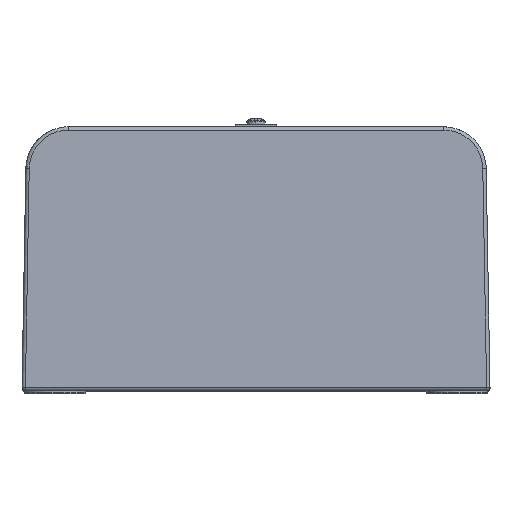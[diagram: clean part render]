
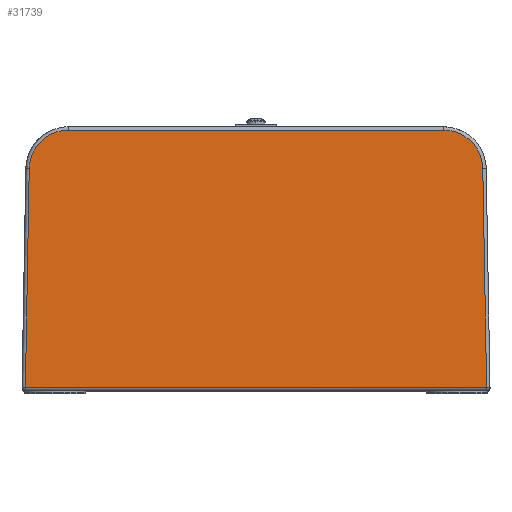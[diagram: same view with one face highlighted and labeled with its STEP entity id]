
A CAD part, top view. The second image highlights one B-rep face of the part: STEP entity #31739.
In plain terms, the highlighted planar face has unit normal (0, 0.018, 1).
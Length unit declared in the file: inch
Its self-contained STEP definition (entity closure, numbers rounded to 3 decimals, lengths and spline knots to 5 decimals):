
#3803 = VECTOR ( 'NONE', #27073, 39.37008 ) ;
#3804 = VECTOR ( 'NONE', #27086, 39.37008 ) ;
#3806 = VECTOR ( 'NONE', #27068, 39.37008 ) ;
#3807 = VECTOR ( 'NONE', #27077, 39.37008 ) ;
#4175 = ORIENTED_EDGE ( 'NONE', *, *, #6968, .T. ) ;
#4176 = ORIENTED_EDGE ( 'NONE', *, *, #6969, .T. ) ;
#4177 = ORIENTED_EDGE ( 'NONE', *, *, #6970, .T. ) ;
#4178 = ORIENTED_EDGE ( 'NONE', *, *, #6971, .T. ) ;
#4179 = ORIENTED_EDGE ( 'NONE', *, *, #6972, .T. ) ;
#4180 = ORIENTED_EDGE ( 'NONE', *, *, #6973, .T. ) ;
#6968 = EDGE_CURVE ( 'NONE', #34292, #34296, #27055, .T. ) ;
#6969 = EDGE_CURVE ( 'NONE', #34296, #34300, #27043, .T. ) ;
#6970 = EDGE_CURVE ( 'NONE', #34300, #34301, #27074, .T. ) ;
#6971 = EDGE_CURVE ( 'NONE', #34301, #34302, #41005, .T. ) ;
#6972 = EDGE_CURVE ( 'NONE', #34302, #34303, #27084, .T. ) ;
#6973 = EDGE_CURVE ( 'NONE', #34303, #34292, #41043, .T. ) ;
#7330 = EDGE_LOOP ( 'NONE', ( #4175, #4176, #4177, #4178, #4179, #4180 ) ) ;
#13686 = AXIS2_PLACEMENT_3D ( 'NONE', #51622, #51628, #51629 ) ;
#18105 = CARTESIAN_POINT ( 'NONE',  ( -2.66447, 2.60873, 4.22446 ) ) ;
#18109 = CARTESIAN_POINT ( 'NONE',  ( -2.7093, 0.0407, 4.26929 ) ) ;
#18113 = CARTESIAN_POINT ( 'NONE',  ( 2.7093, 0.0407, 4.26929 ) ) ;
#18114 = CARTESIAN_POINT ( 'NONE',  ( 2.66447, 2.60873, 4.22446 ) ) ;
#18115 = CARTESIAN_POINT ( 'NONE',  ( 2.20454, 3.0607, 4.21658 ) ) ;
#18116 = CARTESIAN_POINT ( 'NONE',  ( -2.20454, 3.0607, 4.21658 ) ) ;
#27043 = LINE ( 'NONE', #27070, #3803 ) ;
#27045 = CARTESIAN_POINT ( 'NONE',  ( 2.65983, 2.87443, 4.21983 ) ) ;
#27055 = LINE ( 'NONE', #27066, #3806 ) ;
#27064 = CARTESIAN_POINT ( 'NONE',  ( 2.66447, 2.60873, 4.22446 ) ) ;
#27066 = CARTESIAN_POINT ( 'NONE',  ( -2.71009, -0.00506, 4.27009 ) ) ;
#27068 = DIRECTION ( 'NONE',  ( -0.017, -1., 0.017 ) ) ;
#27070 = CARTESIAN_POINT ( 'NONE',  ( -3., 0.0407, 4.26929 ) ) ;
#27073 = DIRECTION ( 'NONE',  ( 1., 0., 0. ) ) ;
#27074 = LINE ( 'NONE', #27075, #3807 ) ;
#27075 = CARTESIAN_POINT ( 'NONE',  ( 2.70827, 0.09961, 4.26826 ) ) ;
#27077 = DIRECTION ( 'NONE',  ( -0.017, 1., -0.017 ) ) ;
#27078 = CARTESIAN_POINT ( 'NONE',  ( -2.20454, 3.0607, 4.21658 ) ) ;
#27081 = CARTESIAN_POINT ( 'NONE',  ( -2.47029, 3.0607, 4.21658 ) ) ;
#27082 = CARTESIAN_POINT ( 'NONE',  ( 2.47029, 3.0607, 4.21658 ) ) ;
#27083 = CARTESIAN_POINT ( 'NONE',  ( 2.20454, 3.0607, 4.21658 ) ) ;
#27084 = LINE ( 'NONE', #27085, #3804 ) ;
#27085 = CARTESIAN_POINT ( 'NONE',  ( -3., 3.0607, 4.21658 ) ) ;
#27086 = DIRECTION ( 'NONE',  ( -1., 0., 0. ) ) ;
#27089 = CARTESIAN_POINT ( 'NONE',  ( -2.65983, 2.87443, 4.21983 ) ) ;
#27090 = CARTESIAN_POINT ( 'NONE',  ( -2.66447, 2.60873, 4.22446 ) ) ;
#31739 = ADVANCED_FACE ( 'NONE', ( #51625 ), #51626, .F. ) ;
#34292 = VERTEX_POINT ( 'NONE', #18105 ) ;
#34296 = VERTEX_POINT ( 'NONE', #18109 ) ;
#34300 = VERTEX_POINT ( 'NONE', #18113 ) ;
#34301 = VERTEX_POINT ( 'NONE', #18114 ) ;
#34302 = VERTEX_POINT ( 'NONE', #18115 ) ;
#34303 = VERTEX_POINT ( 'NONE', #18116 ) ;
#41005 =( BOUNDED_CURVE ( )  B_SPLINE_CURVE ( 3, ( #27064, #27045, #27082, #27083 ),
 .UNSPECIFIED., .F., .T. ) 
 B_SPLINE_CURVE_WITH_KNOTS ( ( 4, 4 ),
 ( 4.72984, 6.28319 ),
 .UNSPECIFIED. ) 
 CURVE ( )  GEOMETRIC_REPRESENTATION_ITEM ( )  RATIONAL_B_SPLINE_CURVE ( ( 1., 0.809, 0.809, 1. ) ) 
 REPRESENTATION_ITEM ( '' )  );
#41043 =( BOUNDED_CURVE ( )  B_SPLINE_CURVE ( 3, ( #27078, #27081, #27089, #27090 ),
 .UNSPECIFIED., .F., .T. ) 
 B_SPLINE_CURVE_WITH_KNOTS ( ( 4, 4 ),
 ( 0., 1.55334 ),
 .UNSPECIFIED. ) 
 CURVE ( )  GEOMETRIC_REPRESENTATION_ITEM ( )  RATIONAL_B_SPLINE_CURVE ( ( 1., 0.809, 0.809, 1. ) ) 
 REPRESENTATION_ITEM ( '' )  );
#51622 = CARTESIAN_POINT ( 'NONE',  ( -3., 0., 4.27 ) ) ;
#51625 = FACE_OUTER_BOUND ( 'NONE', #7330, .T. ) ;
#51626 = PLANE ( 'NONE',  #13686 ) ;
#51628 = DIRECTION ( 'NONE',  ( 0., -0.017, -1. ) ) ;
#51629 = DIRECTION ( 'NONE',  ( 0., 1., -0.017 ) ) ;
